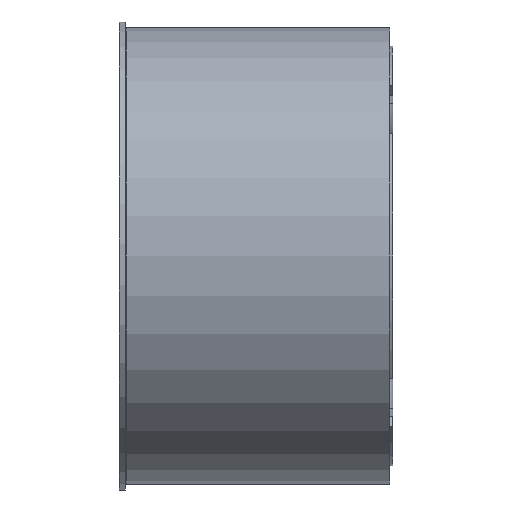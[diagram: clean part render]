
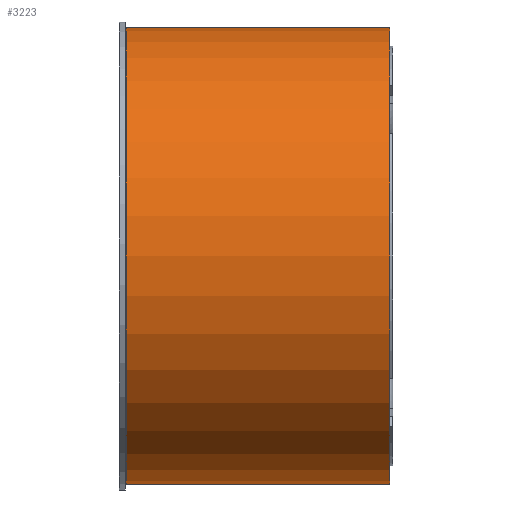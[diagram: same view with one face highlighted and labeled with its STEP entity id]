
A CAD part, left-side view. The second image highlights one B-rep face of the part: STEP entity #3223.
In plain terms, the highlighted cylindrical face has radius 37.5 mm (diameter 75 mm), a full revolution.
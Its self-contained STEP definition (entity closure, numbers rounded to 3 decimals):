
#256=FACE_OUTER_BOUND('',#458,.T.);
#458=EDGE_LOOP('',(#2324,#2325,#2326,#2327));
#620=CIRCLE('',#3421,37.5);
#691=CIRCLE('',#3547,37.5);
#868=LINE('',#5350,#1080);
#1080=VECTOR('',#4205,37.5);
#1294=VERTEX_POINT('',#5002);
#1338=VERTEX_POINT('',#5349);
#1589=EDGE_CURVE('',#1294,#1294,#620,.T.);
#1689=EDGE_CURVE('',#1294,#1338,#868,.T.);
#1690=EDGE_CURVE('',#1338,#1338,#691,.T.);
#2324=ORIENTED_EDGE('',*,*,#1589,.F.);
#2325=ORIENTED_EDGE('',*,*,#1689,.T.);
#2326=ORIENTED_EDGE('',*,*,#1690,.T.);
#2327=ORIENTED_EDGE('',*,*,#1689,.F.);
#2910=CYLINDRICAL_SURFACE('',#3546,37.5);
#3223=ADVANCED_FACE('',(#256),#2910,.T.);
#3421=AXIS2_PLACEMENT_3D('',#5003,#3926,#3927);
#3546=AXIS2_PLACEMENT_3D('',#5348,#4203,#4204);
#3547=AXIS2_PLACEMENT_3D('',#5351,#4206,#4207);
#3926=DIRECTION('center_axis',(0.,1.,0.));
#3927=DIRECTION('ref_axis',(0.,0.,
-1.));
#4203=DIRECTION('center_axis',(0.,1.,0.));
#4204=DIRECTION('ref_axis',(0.,0.,
1.));
#4205=DIRECTION('',(0.,-1.,0.));
#4206=DIRECTION('center_axis',(0.,1.,0.));
#4207=DIRECTION('ref_axis',(0.,0.,
1.));
#5002=CARTESIAN_POINT('',(0.,43.8,-37.5));
#5003=CARTESIAN_POINT('Origin',(0.,43.8,0.));
#5348=CARTESIAN_POINT('Origin',(0.,0.5,
0.));
#5349=CARTESIAN_POINT('',(0.,0.5,-37.5));
#5350=CARTESIAN_POINT('',(0.,0.5,-37.5));
#5351=CARTESIAN_POINT('Origin',(0.,0.5,
0.));
